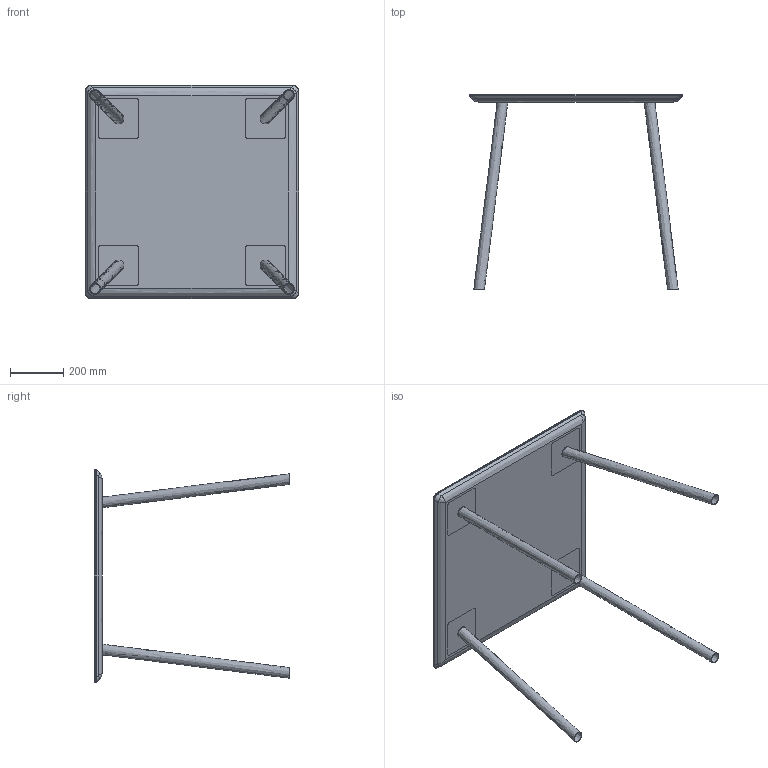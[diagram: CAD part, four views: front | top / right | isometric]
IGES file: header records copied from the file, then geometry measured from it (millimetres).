
Start section: SolidWorks IGES file using NURBS representation for surfaces
Global section: file name: W:\01-VICCARBE\PRODUCTOS\48-MAARTEN MESA\04-MODELADOS (PLANOS)\2-WEB\Piezas\IGS\VICCARBE_Maarten_80x80.IGS; native system: SolidWorks 2013; preprocessor: SolidWorks 2013; author: Usuario; date: 140904.103528; units: millimetre
Bounding box: 800 x 734 x 800 mm (x, y, z)
Surface area: 2214546.3 mm2 (no closed solid volume)
Topology: 0 solids, 0 shells, 110 faces, 516 edges, 496 vertices
Faces by surface type: bspline 110
